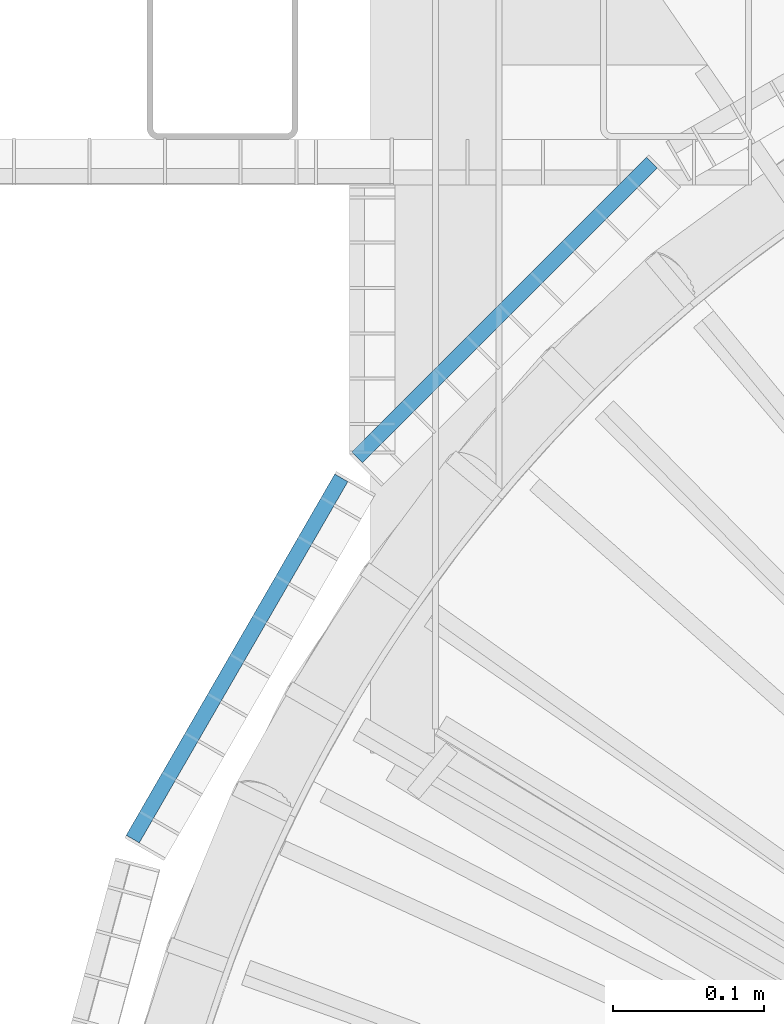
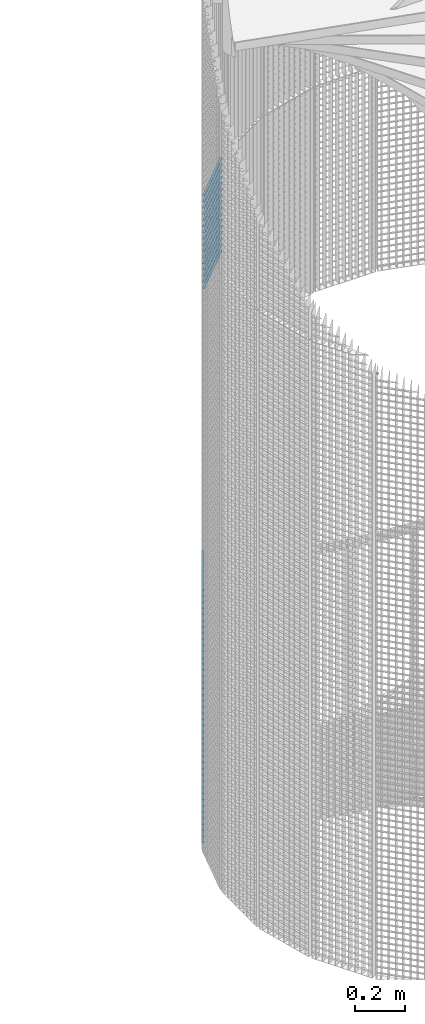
# One storey, part 217 of 1183: 58 beams, 2 elements without a shape of their own.
"""IFC2X3 building model written with IfcOpenShell, lengths in millimetres."""

from ifc_helpers import new_model, si_unit, frame, origin_with_axes, origin_2d_with_axis, place, context, subcontext, project, spatial, rectangle, extrude, material, type_object, element, aggregate, save


model = new_model("IFC2X3")

# Units and contexts
model_context = context("Model", 3, precision=1e-05, world=origin_with_axes())
body_context = subcontext(model_context, "Body", "Model", "MODEL_VIEW")
ifc_project = project(units=[si_unit("LENGTHUNIT", "METRE", prefix="MILLI"), si_unit("AREAUNIT", "SQUARE_METRE"), si_unit("VOLUMEUNIT", "CUBIC_METRE"), si_unit("MASSUNIT", "GRAM", prefix="KILO"), si_unit("TIMEUNIT", "SECOND"), si_unit("PLANEANGLEUNIT", "RADIAN"), si_unit("SOLIDANGLEUNIT", "STERADIAN"), si_unit("THERMODYNAMICTEMPERATUREUNIT", "DEGREE_CELSIUS"), si_unit("LUMINOUSINTENSITYUNIT", "LUMEN")], contexts=[model_context])

# Site, building, storey
site_placement = place(None, origin_with_axes())
site = spatial("IfcSite", under=ifc_project, at=site_placement, Name="Undefined", CompositionType="ELEMENT")
building_placement = place(site_placement, origin_with_axes())
building = spatial("IfcBuilding", under=site, at=building_placement, Name="Undefined", CompositionType="ELEMENT")
storey_placement = place(building_placement, origin_with_axes())
storey = spatial("IfcBuildingStorey", under=building, at=storey_placement, Name="Undefined", CompositionType="ELEMENT", Elevation=0.0)

# Assembly, beams
assembly_1_placement = place(storey_placement, origin_with_axes())
assembly_1 = element("IfcElementAssembly", 1, at=assembly_1_placement, inside=storey, Name="BORDURE", AssemblyPlace="NOTDEFINED", PredefinedType="NOTDEFINED")
ifc_material = material(Name="STEEL/S235JR")
beam_type = type_object("IfcBeamType", Name="PL2*10", PredefinedType="NOTDEFINED")
beam_1_placement = place(assembly_1_placement, frame((-895.303964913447, 676.248044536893, 1260.0), z_axis=(-0.866025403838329, 0.499999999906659, 0.0), x_axis=(-0.49999999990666, -0.866025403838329, 0.0)))
beam_1 = element("IfcBeam", 2, at=beam_1_placement, type_object=beam_type, material=ifc_material, Name="ENTRETOISE", context=body_context, shape_type="SweptSolid", body=[
    extrude(rectangle(XDim=2.0, YDim=10.0, at=origin_2d_with_axis()), frame((275.999999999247, 9.09494701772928e-13, 1.53210777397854e-14), z_axis=(-1.0, 0.0, 0.0), x_axis=(0.0, -1.0, 0.0)), (0.0, 0.0, 1.0), 276.0),
])
beam_2_placement = place(assembly_1_placement, frame((-895.303964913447, 676.248044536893, 1230.0), z_axis=(-0.866025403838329, 0.499999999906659, 0.0), x_axis=(-0.49999999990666, -0.866025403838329, 0.0)))
beam_2 = element("IfcBeam", 3, at=beam_2_placement, type_object=beam_type, material=ifc_material, Name="ENTRETOISE", context=body_context, shape_type="SweptSolid", body=[
    extrude(rectangle(XDim=2.0, YDim=10.0, at=origin_2d_with_axis()), frame((275.999999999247, 9.09494701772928e-13, 1.53210777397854e-14), z_axis=(-1.0, 0.0, 0.0), x_axis=(0.0, -1.0, 0.0)), (0.0, 0.0, 1.0), 276.0),
])
beam_3_placement = place(assembly_1_placement, frame((-895.303964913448, 676.248044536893, 1200.0), z_axis=(-0.866025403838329, 0.499999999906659, 0.0), x_axis=(-0.49999999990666, -0.866025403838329, 0.0)))
beam_3 = element("IfcBeam", 4, at=beam_3_placement, type_object=beam_type, material=ifc_material, Name="ENTRETOISE", context=body_context, shape_type="SweptSolid", body=[
    extrude(rectangle(XDim=2.0, YDim=10.0, at=origin_2d_with_axis()), frame((275.999999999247, 9.09494701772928e-13, 1.53210777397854e-14), z_axis=(-1.0, 0.0, 0.0), x_axis=(0.0, -1.0, 0.0)), (0.0, 0.0, 1.0), 276.0),
])
beam_4_placement = place(assembly_1_placement, frame((-895.303964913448, 676.248044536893, 1170.0), z_axis=(-0.866025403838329, 0.499999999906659, 0.0), x_axis=(-0.49999999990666, -0.866025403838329, 0.0)))
beam_4 = element("IfcBeam", 5, at=beam_4_placement, type_object=beam_type, material=ifc_material, Name="ENTRETOISE", context=body_context, shape_type="SweptSolid", body=[
    extrude(rectangle(XDim=2.0, YDim=10.0, at=origin_2d_with_axis()), frame((275.999999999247, 9.09494701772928e-13, 1.53210777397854e-14), z_axis=(-1.0, 0.0, 0.0), x_axis=(0.0, -1.0, 0.0)), (0.0, 0.0, 1.0), 276.0),
])
beam_5_placement = place(assembly_1_placement, frame((-895.303964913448, 676.248044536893, 1140.0), z_axis=(-0.866025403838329, 0.499999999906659, 0.0), x_axis=(-0.49999999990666, -0.866025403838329, 0.0)))
beam_5 = element("IfcBeam", 6, at=beam_5_placement, type_object=beam_type, material=ifc_material, Name="ENTRETOISE", context=body_context, shape_type="SweptSolid", body=[
    extrude(rectangle(XDim=2.0, YDim=10.0, at=origin_2d_with_axis()), frame((275.999999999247, 9.09494701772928e-13, 1.53210777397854e-14), z_axis=(-1.0, 0.0, 0.0), x_axis=(0.0, -1.0, 0.0)), (0.0, 0.0, 1.0), 276.0),
])
beam_6_placement = place(assembly_1_placement, frame((-895.303964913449, 676.248044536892, 719.999999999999), z_axis=(-0.866025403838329, 0.499999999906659, 0.0), x_axis=(-0.49999999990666, -0.866025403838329, 0.0)))
beam_6 = element("IfcBeam", 7, at=beam_6_placement, type_object=beam_type, material=ifc_material, Name="ENTRETOISE", context=body_context, shape_type="SweptSolid", body=[
    extrude(rectangle(XDim=2.0, YDim=10.0, at=origin_2d_with_axis()), frame((275.999999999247, 9.09494701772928e-13, 1.53210777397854e-14), z_axis=(-1.0, 0.0, 0.0), x_axis=(0.0, -1.0, 0.0)), (0.0, 0.0, 1.0), 276.0),
])
beam_7_placement = place(assembly_1_placement, frame((-895.303964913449, 676.248044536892, 689.999999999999), z_axis=(-0.866025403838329, 0.499999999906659, 0.0), x_axis=(-0.49999999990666, -0.866025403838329, 0.0)))
beam_7 = element("IfcBeam", 8, at=beam_7_placement, type_object=beam_type, material=ifc_material, Name="ENTRETOISE", context=body_context, shape_type="SweptSolid", body=[
    extrude(rectangle(XDim=2.0, YDim=10.0, at=origin_2d_with_axis()), frame((275.999999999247, 9.09494701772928e-13, 1.53210777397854e-14), z_axis=(-1.0, 0.0, 0.0), x_axis=(0.0, -1.0, 0.0)), (0.0, 0.0, 1.0), 276.0),
])
beam_8_placement = place(assembly_1_placement, frame((-895.303964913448, 676.248044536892, 749.999999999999), z_axis=(-0.866025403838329, 0.499999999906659, 0.0), x_axis=(-0.49999999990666, -0.866025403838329, 0.0)))
beam_8 = element("IfcBeam", 9, at=beam_8_placement, type_object=beam_type, material=ifc_material, Name="ENTRETOISE", context=body_context, shape_type="SweptSolid", body=[
    extrude(rectangle(XDim=2.0, YDim=10.0, at=origin_2d_with_axis()), frame((275.999999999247, 9.09494701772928e-13, 1.53210777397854e-14), z_axis=(-1.0, 0.0, 0.0), x_axis=(0.0, -1.0, 0.0)), (0.0, 0.0, 1.0), 276.0),
])
beam_9_placement = place(assembly_1_placement, frame((-895.303964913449, 676.248044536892, 659.999999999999), z_axis=(-0.866025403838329, 0.499999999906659, 0.0), x_axis=(-0.49999999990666, -0.866025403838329, 0.0)))
beam_9 = element("IfcBeam", 10, at=beam_9_placement, type_object=beam_type, material=ifc_material, Name="ENTRETOISE", context=body_context, shape_type="SweptSolid", body=[
    extrude(rectangle(XDim=2.0, YDim=10.0, at=origin_2d_with_axis()), frame((275.999999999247, 9.09494701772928e-13, 1.53210777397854e-14), z_axis=(-1.0, 0.0, 0.0), x_axis=(0.0, -1.0, 0.0)), (0.0, 0.0, 1.0), 276.0),
])
beam_10_placement = place(assembly_1_placement, frame((-895.303964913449, 676.248044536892, 629.999999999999), z_axis=(-0.866025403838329, 0.499999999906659, 0.0), x_axis=(-0.49999999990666, -0.866025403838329, 0.0)))
beam_10 = element("IfcBeam", 11, at=beam_10_placement, type_object=beam_type, material=ifc_material, Name="ENTRETOISE", context=body_context, shape_type="SweptSolid", body=[
    extrude(rectangle(XDim=2.0, YDim=10.0, at=origin_2d_with_axis()), frame((275.999999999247, 9.09494701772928e-13, 1.53210777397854e-14), z_axis=(-1.0, 0.0, 0.0), x_axis=(0.0, -1.0, 0.0)), (0.0, 0.0, 1.0), 276.0),
])
beam_11_placement = place(assembly_1_placement, frame((-895.303964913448, 676.248044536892, 779.999999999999), z_axis=(-0.866025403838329, 0.499999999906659, 0.0), x_axis=(-0.49999999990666, -0.866025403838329, 0.0)))
beam_11 = element("IfcBeam", 12, at=beam_11_placement, type_object=beam_type, material=ifc_material, Name="ENTRETOISE", context=body_context, shape_type="SweptSolid", body=[
    extrude(rectangle(XDim=2.0, YDim=10.0, at=origin_2d_with_axis()), frame((275.999999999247, 9.09494701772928e-13, 1.53210777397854e-14), z_axis=(-1.0, 0.0, 0.0), x_axis=(0.0, -1.0, 0.0)), (0.0, 0.0, 1.0), 276.0),
])
beam_12_placement = place(assembly_1_placement, frame((-895.303964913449, 676.248044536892, 599.999999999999), z_axis=(-0.866025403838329, 0.499999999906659, 0.0), x_axis=(-0.49999999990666, -0.866025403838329, 0.0)))
beam_12 = element("IfcBeam", 13, at=beam_12_placement, type_object=beam_type, material=ifc_material, Name="ENTRETOISE", context=body_context, shape_type="SweptSolid", body=[
    extrude(rectangle(XDim=2.0, YDim=10.0, at=origin_2d_with_axis()), frame((275.999999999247, 9.09494701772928e-13, 1.53210777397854e-14), z_axis=(-1.0, 0.0, 0.0), x_axis=(0.0, -1.0, 0.0)), (0.0, 0.0, 1.0), 276.0),
])
beam_13_placement = place(assembly_1_placement, frame((-895.303964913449, 676.248044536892, 809.999999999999), z_axis=(-0.866025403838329, 0.499999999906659, 0.0), x_axis=(-0.49999999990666, -0.866025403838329, 0.0)))
beam_13 = element("IfcBeam", 14, at=beam_13_placement, type_object=beam_type, material=ifc_material, Name="ENTRETOISE", context=body_context, shape_type="SweptSolid", body=[
    extrude(rectangle(XDim=2.0, YDim=10.0, at=origin_2d_with_axis()), frame((275.999999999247, 9.09494701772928e-13, 1.53210777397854e-14), z_axis=(-1.0, 0.0, 0.0), x_axis=(0.0, -1.0, 0.0)), (0.0, 0.0, 1.0), 276.0),
])
beam_14_placement = place(assembly_1_placement, frame((-895.303964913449, 676.248044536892, 569.999999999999), z_axis=(-0.866025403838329, 0.499999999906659, 0.0), x_axis=(-0.49999999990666, -0.866025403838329, 0.0)))
beam_14 = element("IfcBeam", 15, at=beam_14_placement, type_object=beam_type, material=ifc_material, Name="ENTRETOISE", context=body_context, shape_type="SweptSolid", body=[
    extrude(rectangle(XDim=2.0, YDim=10.0, at=origin_2d_with_axis()), frame((275.999999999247, 9.09494701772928e-13, 1.53210777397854e-14), z_axis=(-1.0, 0.0, 0.0), x_axis=(0.0, -1.0, 0.0)), (0.0, 0.0, 1.0), 276.0),
])
beam_15_placement = place(assembly_1_placement, frame((-895.303964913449, 676.248044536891, 539.999999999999), z_axis=(-0.866025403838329, 0.499999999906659, 0.0), x_axis=(-0.49999999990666, -0.866025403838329, 0.0)))
beam_15 = element("IfcBeam", 16, at=beam_15_placement, type_object=beam_type, material=ifc_material, Name="ENTRETOISE", context=body_context, shape_type="SweptSolid", body=[
    extrude(rectangle(XDim=2.0, YDim=10.0, at=origin_2d_with_axis()), frame((275.999999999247, 9.09494701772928e-13, 1.53210777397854e-14), z_axis=(-1.0, 0.0, 0.0), x_axis=(0.0, -1.0, 0.0)), (0.0, 0.0, 1.0), 276.0),
])
beam_16_placement = place(assembly_1_placement, frame((-895.303964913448, 676.248044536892, 839.999999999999), z_axis=(-0.866025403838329, 0.499999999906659, 0.0), x_axis=(-0.49999999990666, -0.866025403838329, 0.0)))
beam_16 = element("IfcBeam", 17, at=beam_16_placement, type_object=beam_type, material=ifc_material, Name="ENTRETOISE", context=body_context, shape_type="SweptSolid", body=[
    extrude(rectangle(XDim=2.0, YDim=10.0, at=origin_2d_with_axis()), frame((275.999999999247, 9.09494701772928e-13, 1.53210777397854e-14), z_axis=(-1.0, 0.0, 0.0), x_axis=(0.0, -1.0, 0.0)), (0.0, 0.0, 1.0), 276.0),
])
beam_17_placement = place(assembly_1_placement, frame((-895.303964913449, 676.248044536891, 509.999999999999), z_axis=(-0.866025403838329, 0.499999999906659, 0.0), x_axis=(-0.49999999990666, -0.866025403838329, 0.0)))
beam_17 = element("IfcBeam", 18, at=beam_17_placement, type_object=beam_type, material=ifc_material, Name="ENTRETOISE", context=body_context, shape_type="SweptSolid", body=[
    extrude(rectangle(XDim=2.0, YDim=10.0, at=origin_2d_with_axis()), frame((275.999999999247, 9.09494701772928e-13, 1.53210777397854e-14), z_axis=(-1.0, 0.0, 0.0), x_axis=(0.0, -1.0, 0.0)), (0.0, 0.0, 1.0), 276.0),
])
beam_18_placement = place(assembly_1_placement, frame((-895.303964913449, 676.248044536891, 479.999999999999), z_axis=(-0.866025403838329, 0.499999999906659, 0.0), x_axis=(-0.49999999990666, -0.866025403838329, 0.0)))
beam_18 = element("IfcBeam", 19, at=beam_18_placement, type_object=beam_type, material=ifc_material, Name="ENTRETOISE", context=body_context, shape_type="SweptSolid", body=[
    extrude(rectangle(XDim=2.0, YDim=10.0, at=origin_2d_with_axis()), frame((275.999999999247, 9.09494701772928e-13, 1.53210777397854e-14), z_axis=(-1.0, 0.0, 0.0), x_axis=(0.0, -1.0, 0.0)), (0.0, 0.0, 1.0), 276.0),
])
beam_19_placement = place(assembly_1_placement, frame((-895.303964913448, 676.248044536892, 869.999999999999), z_axis=(-0.866025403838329, 0.499999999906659, 0.0), x_axis=(-0.49999999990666, -0.866025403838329, 0.0)))
beam_19 = element("IfcBeam", 20, at=beam_19_placement, type_object=beam_type, material=ifc_material, Name="ENTRETOISE", context=body_context, shape_type="SweptSolid", body=[
    extrude(rectangle(XDim=2.0, YDim=10.0, at=origin_2d_with_axis()), frame((275.999999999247, 9.09494701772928e-13, 1.53210777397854e-14), z_axis=(-1.0, 0.0, 0.0), x_axis=(0.0, -1.0, 0.0)), (0.0, 0.0, 1.0), 276.0),
])
beam_20_placement = place(assembly_1_placement, frame((-895.303964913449, 676.248044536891, 449.999999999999), z_axis=(-0.866025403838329, 0.499999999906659, 0.0), x_axis=(-0.49999999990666, -0.866025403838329, 0.0)))
beam_20 = element("IfcBeam", 21, at=beam_20_placement, type_object=beam_type, material=ifc_material, Name="ENTRETOISE", context=body_context, shape_type="SweptSolid", body=[
    extrude(rectangle(XDim=2.0, YDim=10.0, at=origin_2d_with_axis()), frame((275.999999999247, 9.09494701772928e-13, 1.53210777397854e-14), z_axis=(-1.0, 0.0, 0.0), x_axis=(0.0, -1.0, 0.0)), (0.0, 0.0, 1.0), 276.0),
])
beam_21_placement = place(assembly_1_placement, frame((-895.303964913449, 676.248044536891, 419.999999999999), z_axis=(-0.866025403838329, 0.499999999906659, 0.0), x_axis=(-0.49999999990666, -0.866025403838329, 0.0)))
beam_21 = element("IfcBeam", 22, at=beam_21_placement, type_object=beam_type, material=ifc_material, Name="ENTRETOISE", context=body_context, shape_type="SweptSolid", body=[
    extrude(rectangle(XDim=2.0, YDim=10.0, at=origin_2d_with_axis()), frame((275.999999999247, 9.09494701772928e-13, 1.53210777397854e-14), z_axis=(-1.0, 0.0, 0.0), x_axis=(0.0, -1.0, 0.0)), (0.0, 0.0, 1.0), 276.0),
])
beam_22_placement = place(assembly_1_placement, frame((-895.303964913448, 676.248044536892, 899.999999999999), z_axis=(-0.866025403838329, 0.499999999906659, 0.0), x_axis=(-0.49999999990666, -0.866025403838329, 0.0)))
beam_22 = element("IfcBeam", 23, at=beam_22_placement, type_object=beam_type, material=ifc_material, Name="ENTRETOISE", context=body_context, shape_type="SweptSolid", body=[
    extrude(rectangle(XDim=2.0, YDim=10.0, at=origin_2d_with_axis()), frame((275.999999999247, 9.09494701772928e-13, 1.53210777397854e-14), z_axis=(-1.0, 0.0, 0.0), x_axis=(0.0, -1.0, 0.0)), (0.0, 0.0, 1.0), 276.0),
])
beam_23_placement = place(assembly_1_placement, frame((-895.30396491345, 676.248044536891, 389.999999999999), z_axis=(-0.866025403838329, 0.499999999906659, 0.0), x_axis=(-0.49999999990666, -0.866025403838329, 0.0)))
beam_23 = element("IfcBeam", 24, at=beam_23_placement, type_object=beam_type, material=ifc_material, Name="ENTRETOISE", context=body_context, shape_type="SweptSolid", body=[
    extrude(rectangle(XDim=2.0, YDim=10.0, at=origin_2d_with_axis()), frame((275.999999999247, 9.09494701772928e-13, 1.53210777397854e-14), z_axis=(-1.0, 0.0, 0.0), x_axis=(0.0, -1.0, 0.0)), (0.0, 0.0, 1.0), 276.0),
])
beam_24_placement = place(assembly_1_placement, frame((-895.303964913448, 676.248044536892, 929.999999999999), z_axis=(-0.866025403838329, 0.499999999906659, 0.0), x_axis=(-0.49999999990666, -0.866025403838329, 0.0)))
beam_24 = element("IfcBeam", 25, at=beam_24_placement, type_object=beam_type, material=ifc_material, Name="ENTRETOISE", context=body_context, shape_type="SweptSolid", body=[
    extrude(rectangle(XDim=2.0, YDim=10.0, at=origin_2d_with_axis()), frame((275.999999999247, 9.09494701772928e-13, 1.53210777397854e-14), z_axis=(-1.0, 0.0, 0.0), x_axis=(0.0, -1.0, 0.0)), (0.0, 0.0, 1.0), 276.0),
])
beam_25_placement = place(assembly_1_placement, frame((-895.30396491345, 676.248044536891, 359.999999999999), z_axis=(-0.866025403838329, 0.499999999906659, 0.0), x_axis=(-0.49999999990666, -0.866025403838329, 0.0)))
beam_25 = element("IfcBeam", 26, at=beam_25_placement, type_object=beam_type, material=ifc_material, Name="ENTRETOISE", context=body_context, shape_type="SweptSolid", body=[
    extrude(rectangle(XDim=2.0, YDim=10.0, at=origin_2d_with_axis()), frame((275.999999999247, 9.09494701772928e-13, 1.53210777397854e-14), z_axis=(-1.0, 0.0, 0.0), x_axis=(0.0, -1.0, 0.0)), (0.0, 0.0, 1.0), 276.0),
])
beam_26_placement = place(assembly_1_placement, frame((-895.303964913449, 676.248044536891, 329.999999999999), z_axis=(-0.866025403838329, 0.499999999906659, 0.0), x_axis=(-0.49999999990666, -0.866025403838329, 0.0)))
beam_26 = element("IfcBeam", 27, at=beam_26_placement, type_object=beam_type, material=ifc_material, Name="ENTRETOISE", context=body_context, shape_type="SweptSolid", body=[
    extrude(rectangle(XDim=2.0, YDim=10.0, at=origin_2d_with_axis()), frame((275.999999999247, 9.09494701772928e-13, 1.53210777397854e-14), z_axis=(-1.0, 0.0, 0.0), x_axis=(0.0, -1.0, 0.0)), (0.0, 0.0, 1.0), 276.0),
])
beam_27_placement = place(assembly_1_placement, frame((-895.303964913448, 676.248044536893, 959.999999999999), z_axis=(-0.866025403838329, 0.499999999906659, 0.0), x_axis=(-0.49999999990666, -0.866025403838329, 0.0)))
beam_27 = element("IfcBeam", 28, at=beam_27_placement, type_object=beam_type, material=ifc_material, Name="ENTRETOISE", context=body_context, shape_type="SweptSolid", body=[
    extrude(rectangle(XDim=2.0, YDim=10.0, at=origin_2d_with_axis()), frame((275.999999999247, 9.09494701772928e-13, 1.53210777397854e-14), z_axis=(-1.0, 0.0, 0.0), x_axis=(0.0, -1.0, 0.0)), (0.0, 0.0, 1.0), 276.0),
])
beam_28_placement = place(assembly_1_placement, frame((-895.303964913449, 676.248044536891, 299.999999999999), z_axis=(-0.866025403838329, 0.499999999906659, 0.0), x_axis=(-0.49999999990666, -0.866025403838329, 0.0)))
beam_28 = element("IfcBeam", 29, at=beam_28_placement, type_object=beam_type, material=ifc_material, Name="ENTRETOISE", context=body_context, shape_type="SweptSolid", body=[
    extrude(rectangle(XDim=2.0, YDim=10.0, at=origin_2d_with_axis()), frame((275.999999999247, 9.09494701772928e-13, 1.53210777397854e-14), z_axis=(-1.0, 0.0, 0.0), x_axis=(0.0, -1.0, 0.0)), (0.0, 0.0, 1.0), 276.0),
])
beam_29_placement = place(assembly_1_placement, frame((-895.303964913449, 676.248044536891, 269.999999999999), z_axis=(-0.866025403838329, 0.499999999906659, 0.0), x_axis=(-0.49999999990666, -0.866025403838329, 0.0)))
beam_29 = element("IfcBeam", 30, at=beam_29_placement, type_object=beam_type, material=ifc_material, Name="ENTRETOISE", context=body_context, shape_type="SweptSolid", body=[
    extrude(rectangle(XDim=2.0, YDim=10.0, at=origin_2d_with_axis()), frame((275.999999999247, 9.09494701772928e-13, 1.53210777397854e-14), z_axis=(-1.0, 0.0, 0.0), x_axis=(0.0, -1.0, 0.0)), (0.0, 0.0, 1.0), 276.0),
])
beam_30_placement = place(assembly_1_placement, frame((-895.303964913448, 676.248044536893, 989.999999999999), z_axis=(-0.866025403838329, 0.499999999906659, 0.0), x_axis=(-0.49999999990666, -0.866025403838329, 0.0)))
beam_30 = element("IfcBeam", 31, at=beam_30_placement, type_object=beam_type, material=ifc_material, Name="ENTRETOISE", context=body_context, shape_type="SweptSolid", body=[
    extrude(rectangle(XDim=2.0, YDim=10.0, at=origin_2d_with_axis()), frame((275.999999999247, 9.09494701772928e-13, 1.53210777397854e-14), z_axis=(-1.0, 0.0, 0.0), x_axis=(0.0, -1.0, 0.0)), (0.0, 0.0, 1.0), 276.0),
])
beam_31_placement = place(assembly_1_placement, frame((-895.303964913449, 676.24804453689, 239.999999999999), z_axis=(-0.866025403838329, 0.499999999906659, 0.0), x_axis=(-0.49999999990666, -0.866025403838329, 0.0)))
beam_31 = element("IfcBeam", 32, at=beam_31_placement, type_object=beam_type, material=ifc_material, Name="ENTRETOISE", context=body_context, shape_type="SweptSolid", body=[
    extrude(rectangle(XDim=2.0, YDim=10.0, at=origin_2d_with_axis()), frame((275.999999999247, 9.09494701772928e-13, 1.53210777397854e-14), z_axis=(-1.0, 0.0, 0.0), x_axis=(0.0, -1.0, 0.0)), (0.0, 0.0, 1.0), 276.0),
])
beam_32_placement = place(assembly_1_placement, frame((-895.303964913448, 676.248044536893, 1020.0), z_axis=(-0.866025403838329, 0.499999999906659, 0.0), x_axis=(-0.49999999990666, -0.866025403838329, 0.0)))
beam_32 = element("IfcBeam", 33, at=beam_32_placement, type_object=beam_type, material=ifc_material, Name="ENTRETOISE", context=body_context, shape_type="SweptSolid", body=[
    extrude(rectangle(XDim=2.0, YDim=10.0, at=origin_2d_with_axis()), frame((275.999999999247, 9.09494701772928e-13, 1.53210777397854e-14), z_axis=(-1.0, 0.0, 0.0), x_axis=(0.0, -1.0, 0.0)), (0.0, 0.0, 1.0), 276.0),
])
beam_33_placement = place(assembly_1_placement, frame((-895.303964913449, 676.24804453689, 209.999999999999), z_axis=(-0.866025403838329, 0.499999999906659, 0.0), x_axis=(-0.49999999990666, -0.866025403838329, 0.0)))
beam_33 = element("IfcBeam", 34, at=beam_33_placement, type_object=beam_type, material=ifc_material, Name="ENTRETOISE", context=body_context, shape_type="SweptSolid", body=[
    extrude(rectangle(XDim=2.0, YDim=10.0, at=origin_2d_with_axis()), frame((275.999999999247, 9.09494701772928e-13, 1.53210777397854e-14), z_axis=(-1.0, 0.0, 0.0), x_axis=(0.0, -1.0, 0.0)), (0.0, 0.0, 1.0), 276.0),
])
beam_34_placement = place(assembly_1_placement, frame((-895.30396491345, 676.24804453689, 179.999999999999), z_axis=(-0.866025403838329, 0.499999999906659, 0.0), x_axis=(-0.49999999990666, -0.866025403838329, 0.0)))
beam_34 = element("IfcBeam", 35, at=beam_34_placement, type_object=beam_type, material=ifc_material, Name="ENTRETOISE", context=body_context, shape_type="SweptSolid", body=[
    extrude(rectangle(XDim=2.0, YDim=10.0, at=origin_2d_with_axis()), frame((275.999999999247, 9.09494701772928e-13, 1.53210777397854e-14), z_axis=(-1.0, 0.0, 0.0), x_axis=(0.0, -1.0, 0.0)), (0.0, 0.0, 1.0), 276.0),
])
beam_35_placement = place(assembly_1_placement, frame((-895.303964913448, 676.248044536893, 1050.0), z_axis=(-0.866025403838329, 0.499999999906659, 0.0), x_axis=(-0.49999999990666, -0.866025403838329, 0.0)))
beam_35 = element("IfcBeam", 36, at=beam_35_placement, type_object=beam_type, material=ifc_material, Name="ENTRETOISE", context=body_context, shape_type="SweptSolid", body=[
    extrude(rectangle(XDim=2.0, YDim=10.0, at=origin_2d_with_axis()), frame((275.999999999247, 9.09494701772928e-13, 1.53210777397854e-14), z_axis=(-1.0, 0.0, 0.0), x_axis=(0.0, -1.0, 0.0)), (0.0, 0.0, 1.0), 276.0),
])
beam_36_placement = place(assembly_1_placement, frame((-895.30396491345, 676.24804453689, 149.999999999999), z_axis=(-0.866025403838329, 0.499999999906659, 0.0), x_axis=(-0.49999999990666, -0.866025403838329, 0.0)))
beam_36 = element("IfcBeam", 37, at=beam_36_placement, type_object=beam_type, material=ifc_material, Name="ENTRETOISE", context=body_context, shape_type="SweptSolid", body=[
    extrude(rectangle(XDim=2.0, YDim=10.0, at=origin_2d_with_axis()), frame((275.999999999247, 9.09494701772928e-13, 1.53210777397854e-14), z_axis=(-1.0, 0.0, 0.0), x_axis=(0.0, -1.0, 0.0)), (0.0, 0.0, 1.0), 276.0),
])
beam_37_placement = place(assembly_1_placement, frame((-895.30396491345, 676.24804453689, 119.999999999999), z_axis=(-0.866025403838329, 0.499999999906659, 0.0), x_axis=(-0.49999999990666, -0.866025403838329, 0.0)))
beam_37 = element("IfcBeam", 38, at=beam_37_placement, type_object=beam_type, material=ifc_material, Name="ENTRETOISE", context=body_context, shape_type="SweptSolid", body=[
    extrude(rectangle(XDim=2.0, YDim=10.0, at=origin_2d_with_axis()), frame((275.999999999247, 9.09494701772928e-13, 1.53210777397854e-14), z_axis=(-1.0, 0.0, 0.0), x_axis=(0.0, -1.0, 0.0)), (0.0, 0.0, 1.0), 276.0),
])
beam_38_placement = place(assembly_1_placement, frame((-895.303964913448, 676.248044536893, 1080.0), z_axis=(-0.866025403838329, 0.499999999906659, 0.0), x_axis=(-0.49999999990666, -0.866025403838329, 0.0)))
beam_38 = element("IfcBeam", 39, at=beam_38_placement, type_object=beam_type, material=ifc_material, Name="ENTRETOISE", context=body_context, shape_type="SweptSolid", body=[
    extrude(rectangle(XDim=2.0, YDim=10.0, at=origin_2d_with_axis()), frame((275.999999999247, 9.09494701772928e-13, 1.53210777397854e-14), z_axis=(-1.0, 0.0, 0.0), x_axis=(0.0, -1.0, 0.0)), (0.0, 0.0, 1.0), 276.0),
])
beam_39_placement = place(assembly_1_placement, frame((-895.30396491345, 676.24804453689, 89.9999999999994), z_axis=(-0.866025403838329, 0.499999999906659, 0.0), x_axis=(-0.49999999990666, -0.866025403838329, 0.0)))
beam_39 = element("IfcBeam", 40, at=beam_39_placement, type_object=beam_type, material=ifc_material, Name="ENTRETOISE", context=body_context, shape_type="SweptSolid", body=[
    extrude(rectangle(XDim=2.0, YDim=10.0, at=origin_2d_with_axis()), frame((275.999999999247, 9.09494701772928e-13, 1.53210777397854e-14), z_axis=(-1.0, 0.0, 0.0), x_axis=(0.0, -1.0, 0.0)), (0.0, 0.0, 1.0), 276.0),
])
beam_40_placement = place(assembly_1_placement, frame((-895.30396491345, 676.24804453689, 59.9999999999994), z_axis=(-0.866025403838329, 0.499999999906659, 0.0), x_axis=(-0.49999999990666, -0.866025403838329, 0.0)))
beam_40 = element("IfcBeam", 41, at=beam_40_placement, type_object=beam_type, material=ifc_material, Name="ENTRETOISE", context=body_context, shape_type="SweptSolid", body=[
    extrude(rectangle(XDim=2.0, YDim=10.0, at=origin_2d_with_axis()), frame((275.999999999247, 9.09494701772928e-13, 1.53210777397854e-14), z_axis=(-1.0, 0.0, 0.0), x_axis=(0.0, -1.0, 0.0)), (0.0, 0.0, 1.0), 276.0),
])
beam_41_placement = place(assembly_1_placement, frame((-895.303964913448, 676.248044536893, 1110.0), z_axis=(-0.866025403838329, 0.499999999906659, 0.0), x_axis=(-0.49999999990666, -0.866025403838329, 0.0)))
beam_41 = element("IfcBeam", 42, at=beam_41_placement, type_object=beam_type, material=ifc_material, Name="ENTRETOISE", context=body_context, shape_type="SweptSolid", body=[
    extrude(rectangle(XDim=2.0, YDim=10.0, at=origin_2d_with_axis()), frame((275.999999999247, 9.09494701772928e-13, 1.53210777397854e-14), z_axis=(-1.0, 0.0, 0.0), x_axis=(0.0, -1.0, 0.0)), (0.0, 0.0, 1.0), 276.0),
])
beam_42_placement = place(assembly_1_placement, frame((-895.30396491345, 676.248044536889, 29.9999999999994), z_axis=(-0.866025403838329, 0.499999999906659, 0.0), x_axis=(-0.49999999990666, -0.866025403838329, 0.0)))
beam_42 = element("IfcBeam", 43, at=beam_42_placement, type_object=beam_type, material=ifc_material, Name="ENTRETOISE", context=body_context, shape_type="SweptSolid", body=[
    extrude(rectangle(XDim=2.0, YDim=10.0, at=origin_2d_with_axis()), frame((275.999999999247, 9.09494701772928e-13, 1.53210777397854e-14), z_axis=(-1.0, 0.0, 0.0), x_axis=(0.0, -1.0, 0.0)), (0.0, 0.0, 1.0), 276.0),
])
aggregate(assembly_1, [beam_1, beam_2, beam_3, beam_4, beam_5, beam_6, beam_7, beam_8, beam_9, beam_10, beam_11, beam_12, beam_13, beam_14, beam_15, beam_16, beam_17, beam_18, beam_19, beam_20, beam_21, beam_22, beam_23, beam_24, beam_25, beam_26, beam_27, beam_28, beam_29, beam_30, beam_31, beam_32, beam_33, beam_34, beam_35, beam_36, beam_37, beam_38, beam_39, beam_40, beam_41, beam_42])

assembly_2_placement = place(storey_placement, origin_with_axes())
assembly_2 = element("IfcElementAssembly", 44, at=assembly_2_placement, inside=storey, Name="BORDURE", AssemblyPlace="NOTDEFINED", PredefinedType="NOTDEFINED")
beam_43_placement = place(assembly_2_placement, frame((-689.771348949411, 884.927168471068, 2970.0), z_axis=(-0.707106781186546, 0.707106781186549, 0.0), x_axis=(-0.70710678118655, -0.707106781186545, 0.0)))
beam_43 = element("IfcBeam", 45, at=beam_43_placement, type_object=beam_type, material=ifc_material, Name="ENTRETOISE", context=body_context, shape_type="SweptSolid", body=[
    extrude(rectangle(XDim=2.0, YDim=10.0, at=origin_2d_with_axis()), frame((275.999999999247, 9.09494701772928e-13, 1.53210777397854e-14), z_axis=(-1.0, 0.0, 0.0), x_axis=(0.0, -1.0, 0.0)), (0.0, 0.0, 1.0), 276.0),
])
beam_44_placement = place(assembly_2_placement, frame((-689.771348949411, 884.927168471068, 2940.0), z_axis=(-0.707106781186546, 0.707106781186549, 0.0), x_axis=(-0.70710678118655, -0.707106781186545, 0.0)))
beam_44 = element("IfcBeam", 46, at=beam_44_placement, type_object=beam_type, material=ifc_material, Name="ENTRETOISE", context=body_context, shape_type="SweptSolid", body=[
    extrude(rectangle(XDim=2.0, YDim=10.0, at=origin_2d_with_axis()), frame((275.999999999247, 9.09494701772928e-13, 1.53210777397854e-14), z_axis=(-1.0, 0.0, 0.0), x_axis=(0.0, -1.0, 0.0)), (0.0, 0.0, 1.0), 276.0),
])
beam_45_placement = place(assembly_2_placement, frame((-689.771348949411, 884.927168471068, 2910.0), z_axis=(-0.707106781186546, 0.707106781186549, 0.0), x_axis=(-0.70710678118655, -0.707106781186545, 0.0)))
beam_45 = element("IfcBeam", 47, at=beam_45_placement, type_object=beam_type, material=ifc_material, Name="ENTRETOISE", context=body_context, shape_type="SweptSolid", body=[
    extrude(rectangle(XDim=2.0, YDim=10.0, at=origin_2d_with_axis()), frame((275.999999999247, 9.09494701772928e-13, 1.53210777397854e-14), z_axis=(-1.0, 0.0, 0.0), x_axis=(0.0, -1.0, 0.0)), (0.0, 0.0, 1.0), 276.0),
])
beam_46_placement = place(assembly_2_placement, frame((-689.771348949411, 884.927168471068, 2880.0), z_axis=(-0.707106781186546, 0.707106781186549, 0.0), x_axis=(-0.70710678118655, -0.707106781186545, 0.0)))
beam_46 = element("IfcBeam", 48, at=beam_46_placement, type_object=beam_type, material=ifc_material, Name="ENTRETOISE", context=body_context, shape_type="SweptSolid", body=[
    extrude(rectangle(XDim=2.0, YDim=10.0, at=origin_2d_with_axis()), frame((275.999999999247, 9.09494701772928e-13, 1.53210777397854e-14), z_axis=(-1.0, 0.0, 0.0), x_axis=(0.0, -1.0, 0.0)), (0.0, 0.0, 1.0), 276.0),
])
beam_47_placement = place(assembly_2_placement, frame((-689.771348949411, 884.927168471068, 2850.0), z_axis=(-0.707106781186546, 0.707106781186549, 0.0), x_axis=(-0.70710678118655, -0.707106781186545, 0.0)))
beam_47 = element("IfcBeam", 49, at=beam_47_placement, type_object=beam_type, material=ifc_material, Name="ENTRETOISE", context=body_context, shape_type="SweptSolid", body=[
    extrude(rectangle(XDim=2.0, YDim=10.0, at=origin_2d_with_axis()), frame((275.999999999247, 9.09494701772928e-13, 1.53210777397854e-14), z_axis=(-1.0, 0.0, 0.0), x_axis=(0.0, -1.0, 0.0)), (0.0, 0.0, 1.0), 276.0),
])
beam_48_placement = place(assembly_2_placement, frame((-689.771348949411, 884.927168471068, 2820.0), z_axis=(-0.707106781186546, 0.707106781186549, 0.0), x_axis=(-0.70710678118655, -0.707106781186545, 0.0)))
beam_48 = element("IfcBeam", 50, at=beam_48_placement, type_object=beam_type, material=ifc_material, Name="ENTRETOISE", context=body_context, shape_type="SweptSolid", body=[
    extrude(rectangle(XDim=2.0, YDim=10.0, at=origin_2d_with_axis()), frame((275.999999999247, 9.09494701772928e-13, 1.53210777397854e-14), z_axis=(-1.0, 0.0, 0.0), x_axis=(0.0, -1.0, 0.0)), (0.0, 0.0, 1.0), 276.0),
])
beam_49_placement = place(assembly_2_placement, frame((-689.771348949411, 884.927168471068, 2790.0), z_axis=(-0.707106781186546, 0.707106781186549, 0.0), x_axis=(-0.70710678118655, -0.707106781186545, 0.0)))
beam_49 = element("IfcBeam", 51, at=beam_49_placement, type_object=beam_type, material=ifc_material, Name="ENTRETOISE", context=body_context, shape_type="SweptSolid", body=[
    extrude(rectangle(XDim=2.0, YDim=10.0, at=origin_2d_with_axis()), frame((275.999999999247, 9.09494701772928e-13, 1.53210777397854e-14), z_axis=(-1.0, 0.0, 0.0), x_axis=(0.0, -1.0, 0.0)), (0.0, 0.0, 1.0), 276.0),
])
beam_50_placement = place(assembly_2_placement, frame((-689.771348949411, 884.927168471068, 2760.0), z_axis=(-0.707106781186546, 0.707106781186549, 0.0), x_axis=(-0.70710678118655, -0.707106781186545, 0.0)))
beam_50 = element("IfcBeam", 52, at=beam_50_placement, type_object=beam_type, material=ifc_material, Name="ENTRETOISE", context=body_context, shape_type="SweptSolid", body=[
    extrude(rectangle(XDim=2.0, YDim=10.0, at=origin_2d_with_axis()), frame((275.999999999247, 9.09494701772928e-13, 1.53210777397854e-14), z_axis=(-1.0, 0.0, 0.0), x_axis=(0.0, -1.0, 0.0)), (0.0, 0.0, 1.0), 276.0),
])
beam_51_placement = place(assembly_2_placement, frame((-689.771348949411, 884.927168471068, 2730.0), z_axis=(-0.707106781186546, 0.707106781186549, 0.0), x_axis=(-0.70710678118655, -0.707106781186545, 0.0)))
beam_51 = element("IfcBeam", 53, at=beam_51_placement, type_object=beam_type, material=ifc_material, Name="ENTRETOISE", context=body_context, shape_type="SweptSolid", body=[
    extrude(rectangle(XDim=2.0, YDim=10.0, at=origin_2d_with_axis()), frame((275.999999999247, 9.09494701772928e-13, 1.53210777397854e-14), z_axis=(-1.0, 0.0, 0.0), x_axis=(0.0, -1.0, 0.0)), (0.0, 0.0, 1.0), 276.0),
])
beam_52_placement = place(assembly_2_placement, frame((-689.771348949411, 884.927168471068, 2700.0), z_axis=(-0.707106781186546, 0.707106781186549, 0.0), x_axis=(-0.70710678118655, -0.707106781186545, 0.0)))
beam_52 = element("IfcBeam", 54, at=beam_52_placement, type_object=beam_type, material=ifc_material, Name="ENTRETOISE", context=body_context, shape_type="SweptSolid", body=[
    extrude(rectangle(XDim=2.0, YDim=10.0, at=origin_2d_with_axis()), frame((275.999999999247, 9.09494701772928e-13, 1.53210777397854e-14), z_axis=(-1.0, 0.0, 0.0), x_axis=(0.0, -1.0, 0.0)), (0.0, 0.0, 1.0), 276.0),
])
beam_53_placement = place(assembly_2_placement, frame((-689.771348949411, 884.927168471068, 2670.0), z_axis=(-0.707106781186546, 0.707106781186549, 0.0), x_axis=(-0.70710678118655, -0.707106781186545, 0.0)))
beam_53 = element("IfcBeam", 55, at=beam_53_placement, type_object=beam_type, material=ifc_material, Name="ENTRETOISE", context=body_context, shape_type="SweptSolid", body=[
    extrude(rectangle(XDim=2.0, YDim=10.0, at=origin_2d_with_axis()), frame((275.999999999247, 9.09494701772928e-13, 1.53210777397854e-14), z_axis=(-1.0, 0.0, 0.0), x_axis=(0.0, -1.0, 0.0)), (0.0, 0.0, 1.0), 276.0),
])
beam_54_placement = place(assembly_2_placement, frame((-689.771348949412, 884.927168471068, 2640.0), z_axis=(-0.707106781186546, 0.707106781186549, 0.0), x_axis=(-0.70710678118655, -0.707106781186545, 0.0)))
beam_54 = element("IfcBeam", 56, at=beam_54_placement, type_object=beam_type, material=ifc_material, Name="ENTRETOISE", context=body_context, shape_type="SweptSolid", body=[
    extrude(rectangle(XDim=2.0, YDim=10.0, at=origin_2d_with_axis()), frame((275.999999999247, 9.09494701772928e-13, 1.53210777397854e-14), z_axis=(-1.0, 0.0, 0.0), x_axis=(0.0, -1.0, 0.0)), (0.0, 0.0, 1.0), 276.0),
])
beam_55_placement = place(assembly_2_placement, frame((-689.771348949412, 884.927168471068, 2610.0), z_axis=(-0.707106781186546, 0.707106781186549, 0.0), x_axis=(-0.70710678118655, -0.707106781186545, 0.0)))
beam_55 = element("IfcBeam", 57, at=beam_55_placement, type_object=beam_type, material=ifc_material, Name="ENTRETOISE", context=body_context, shape_type="SweptSolid", body=[
    extrude(rectangle(XDim=2.0, YDim=10.0, at=origin_2d_with_axis()), frame((275.999999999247, 9.09494701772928e-13, 1.53210777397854e-14), z_axis=(-1.0, 0.0, 0.0), x_axis=(0.0, -1.0, 0.0)), (0.0, 0.0, 1.0), 276.0),
])
beam_56_placement = place(assembly_2_placement, frame((-689.771348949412, 884.927168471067, 2580.0), z_axis=(-0.707106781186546, 0.707106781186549, 0.0), x_axis=(-0.70710678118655, -0.707106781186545, 0.0)))
beam_56 = element("IfcBeam", 58, at=beam_56_placement, type_object=beam_type, material=ifc_material, Name="ENTRETOISE", context=body_context, shape_type="SweptSolid", body=[
    extrude(rectangle(XDim=2.0, YDim=10.0, at=origin_2d_with_axis()), frame((275.999999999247, 9.09494701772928e-13, 1.53210777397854e-14), z_axis=(-1.0, 0.0, 0.0), x_axis=(0.0, -1.0, 0.0)), (0.0, 0.0, 1.0), 276.0),
])
beam_57_placement = place(assembly_2_placement, frame((-689.771348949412, 884.927168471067, 2550.0), z_axis=(-0.707106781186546, 0.707106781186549, 0.0), x_axis=(-0.70710678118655, -0.707106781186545, 0.0)))
beam_57 = element("IfcBeam", 59, at=beam_57_placement, type_object=beam_type, material=ifc_material, Name="ENTRETOISE", context=body_context, shape_type="SweptSolid", body=[
    extrude(rectangle(XDim=2.0, YDim=10.0, at=origin_2d_with_axis()), frame((275.999999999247, 9.09494701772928e-13, 1.53210777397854e-14), z_axis=(-1.0, 0.0, 0.0), x_axis=(0.0, -1.0, 0.0)), (0.0, 0.0, 1.0), 276.0),
])
beam_58_placement = place(assembly_2_placement, frame((-689.771348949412, 884.927168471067, 2520.0), z_axis=(-0.707106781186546, 0.707106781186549, 0.0), x_axis=(-0.70710678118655, -0.707106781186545, 0.0)))
beam_58 = element("IfcBeam", 60, at=beam_58_placement, type_object=beam_type, material=ifc_material, Name="ENTRETOISE", context=body_context, shape_type="SweptSolid", body=[
    extrude(rectangle(XDim=2.0, YDim=10.0, at=origin_2d_with_axis()), frame((275.999999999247, 9.09494701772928e-13, 1.53210777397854e-14), z_axis=(-1.0, 0.0, 0.0), x_axis=(0.0, -1.0, 0.0)), (0.0, 0.0, 1.0), 276.0),
])
aggregate(assembly_2, [beam_43, beam_44, beam_45, beam_46, beam_47, beam_48, beam_49, beam_50, beam_51, beam_52, beam_53, beam_54, beam_55, beam_56, beam_57, beam_58])

save(model, "model.ifc")
